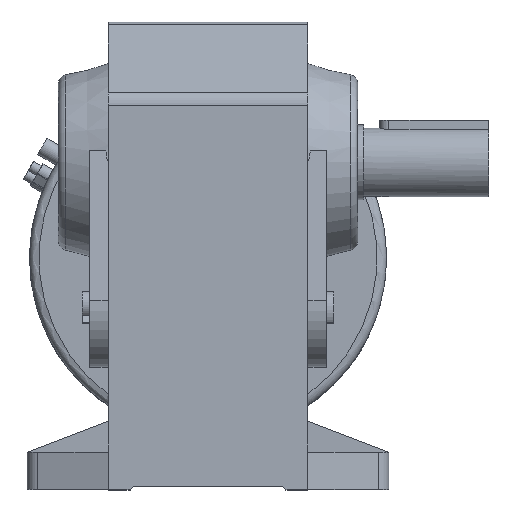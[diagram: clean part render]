
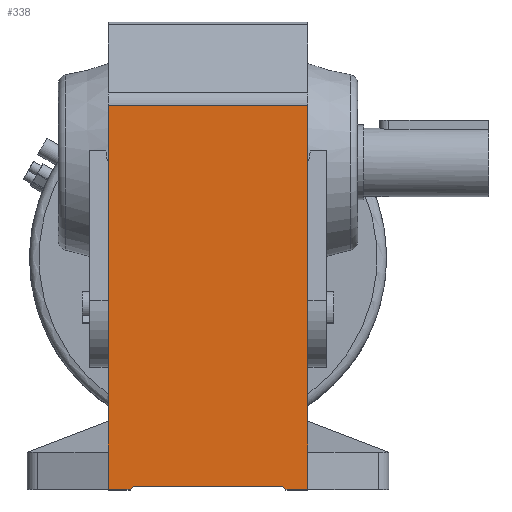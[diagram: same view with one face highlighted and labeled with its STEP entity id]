
A CAD part, top view. The second image highlights one B-rep face of the part: STEP entity #338.
In plain terms, the highlighted planar face has unit normal (0, 0, 1).
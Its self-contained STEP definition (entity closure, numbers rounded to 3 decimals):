
#338 = ADVANCED_FACE( '', ( #933 ), #934, .F. );
#933 = FACE_OUTER_BOUND( '', #1866, .T. );
#934 = PLANE( '', #1867 );
#1866 = EDGE_LOOP( '', ( #3582, #3583, #3584, #3585, #3586, #3587, #3588, #3589, #3590, #3591 ) );
#1867 = AXIS2_PLACEMENT_3D( '', #3592, #3593, #3594 );
#3582 = ORIENTED_EDGE( '', *, *, #6349, .F. );
#3583 = ORIENTED_EDGE( '', *, *, #6343, .F. );
#3584 = ORIENTED_EDGE( '', *, *, #6347, .F. );
#3585 = ORIENTED_EDGE( '', *, *, #6537, .F. );
#3586 = ORIENTED_EDGE( '', *, *, #6384, .F. );
#3587 = ORIENTED_EDGE( '', *, *, #6218, .F. );
#3588 = ORIENTED_EDGE( '', *, *, #6538, .T. );
#3589 = ORIENTED_EDGE( '', *, *, #6228, .T. );
#3590 = ORIENTED_EDGE( '', *, *, #6358, .T. );
#3591 = ORIENTED_EDGE( '', *, *, #6539, .F. );
#3592 = CARTESIAN_POINT( '', ( 32., 18.201, 53. ) );
#3593 = DIRECTION( '', ( 0., 0., -1. ) );
#3594 = DIRECTION( '', ( -1., 0., 0. ) );
#6218 = EDGE_CURVE( '', #7433, #7435, #7436, .T. );
#6228 = EDGE_CURVE( '', #7455, #7453, #7456, .T. );
#6343 = EDGE_CURVE( '', #7656, #7658, #7659, .T. );
#6347 = EDGE_CURVE( '', #7663, #7656, #7665, .T. );
#6349 = EDGE_CURVE( '', #7658, #7668, #7669, .T. );
#6358 = EDGE_CURVE( '', #7453, #7682, #7684, .T. );
#6384 = EDGE_CURVE( '', #7435, #7722, #7724, .T. );
#6537 = EDGE_CURVE( '', #7722, #7663, #7965, .T. );
#6538 = EDGE_CURVE( '', #7433, #7455, #7966, .T. );
#6539 = EDGE_CURVE( '', #7668, #7682, #7967, .T. );
#7433 = VERTEX_POINT( '', #9482 );
#7435 = VERTEX_POINT( '', #9484 );
#7436 = LINE( '', #9485, #9486 );
#7453 = VERTEX_POINT( '', #9508 );
#7455 = VERTEX_POINT( '', #9511 );
#7456 = LINE( '', #9512, #9513 );
#7656 = VERTEX_POINT( '', #9887 );
#7658 = VERTEX_POINT( '', #9890 );
#7659 = LINE( '', #9891, #9892 );
#7663 = VERTEX_POINT( '', #9898 );
#7665 = LINE( '', #9901, #9902 );
#7668 = VERTEX_POINT( '', #9906 );
#7669 = LINE( '', #9907, #9908 );
#7682 = VERTEX_POINT( '', #9927 );
#7684 = LINE( '', #9930, #9931 );
#7722 = VERTEX_POINT( '', #9986 );
#7724 = LINE( '', #9989, #9990 );
#7965 = LINE( '', #10369, #10370 );
#7966 = LINE( '', #10371, #10372 );
#7967 = LINE( '', #10373, #10374 );
#9482 = CARTESIAN_POINT( '', ( 32., 18.201, 53. ) );
#9484 = CARTESIAN_POINT( '', ( 32., -93., 53. ) );
#9485 = CARTESIAN_POINT( '', ( 32., 18.201, 53. ) );
#9486 = VECTOR( '', #13101, 1000. );
#9508 = CARTESIAN_POINT( '', ( -32., -93., 53. ) );
#9511 = CARTESIAN_POINT( '', ( -32., 18.201, 53. ) );
#9512 = CARTESIAN_POINT( '', ( -32., 18.201, 53. ) );
#9513 = VECTOR( '', #13117, 1000. );
#9887 = CARTESIAN_POINT( '', ( 24., -104., 53. ) );
#9890 = CARTESIAN_POINT( '', ( -24., -104., 53. ) );
#9891 = CARTESIAN_POINT( '', ( 32., -104., 53. ) );
#9892 = VECTOR( '', #13285, 1000. );
#9898 = CARTESIAN_POINT( '', ( 25., -105., 53. ) );
#9901 = CARTESIAN_POINT( '', ( -33.1, -46.9, 53. ) );
#9902 = VECTOR( '', #13289, 1000. );
#9906 = CARTESIAN_POINT( '', ( -25., -105., 53. ) );
#9907 = CARTESIAN_POINT( '', ( 65.1, -14.9, 53. ) );
#9908 = VECTOR( '', #13291, 1000. );
#9927 = CARTESIAN_POINT( '', ( -32., -105., 53. ) );
#9930 = CARTESIAN_POINT( '', ( -32., -93., 53. ) );
#9931 = VECTOR( '', #13302, 1000. );
#9986 = CARTESIAN_POINT( '', ( 32., -105., 53. ) );
#9989 = CARTESIAN_POINT( '', ( 32., -93., 53. ) );
#9990 = VECTOR( '', #13342, 1000. );
#10369 = CARTESIAN_POINT( '', ( 32., -105., 53. ) );
#10370 = VECTOR( '', #13523, 1000. );
#10371 = CARTESIAN_POINT( '', ( 32., 18.201, 53. ) );
#10372 = VECTOR( '', #13524, 1000. );
#10373 = CARTESIAN_POINT( '', ( 32., -105., 53. ) );
#10374 = VECTOR( '', #13525, 1000. );
#13101 = DIRECTION( '', ( 0., -1., 0. ) );
#13117 = DIRECTION( '', ( 0., -1., 0. ) );
#13285 = DIRECTION( '', ( -1., 0., 0. ) );
#13289 = DIRECTION( '', ( -0.707, 0.707, 0. ) );
#13291 = DIRECTION( '', ( -0.707, -0.707, 0. ) );
#13302 = DIRECTION( '', ( 0., -1., 0. ) );
#13342 = DIRECTION( '', ( 0., -1., 0. ) );
#13523 = DIRECTION( '', ( -1., 0., 0. ) );
#13524 = DIRECTION( '', ( -1., 0., 0. ) );
#13525 = DIRECTION( '', ( -1., 0., 0. ) );
